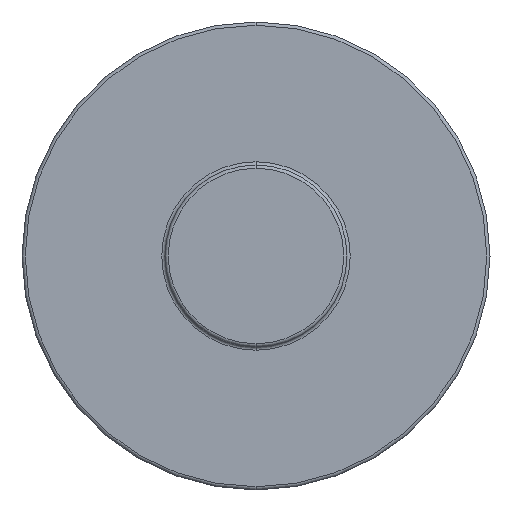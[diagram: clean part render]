
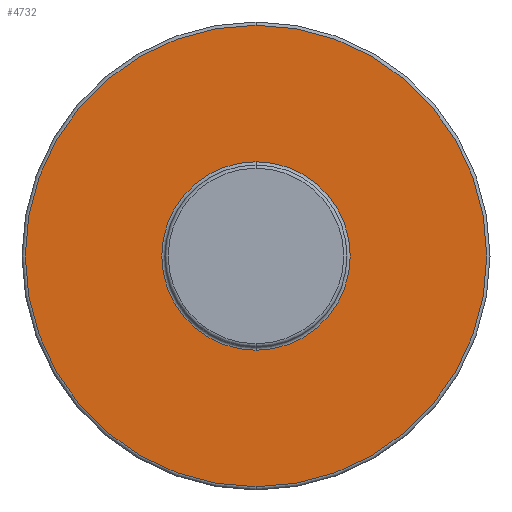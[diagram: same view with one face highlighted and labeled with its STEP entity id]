
A CAD part, front view. The second image highlights one B-rep face of the part: STEP entity #4732.
In plain terms, the highlighted planar face has unit normal (0, -1, 0) as drawn and (-1, 0, 0) by its records, which use the part's own axes.
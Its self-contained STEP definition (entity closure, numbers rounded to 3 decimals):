
#1 = CARTESIAN_POINT ( 'NONE',  ( 0., 0., -14.5 ) ) ;
#42 = EDGE_CURVE ( 'NONE', #2817, #2238, #4392, .T. ) ;
#103 = VERTEX_POINT ( 'NONE', #2790 ) ;
#435 = DIRECTION ( 'NONE',  ( 0., 0., -1. ) ) ;
#448 = ORIENTED_EDGE ( 'NONE', *, *, #4478, .T. ) ;
#456 = CARTESIAN_POINT ( 'NONE',  ( 0., 0., 0. ) ) ;
#648 = AXIS2_PLACEMENT_3D ( 'NONE', #4759, #1134, #1636 ) ;
#802 = EDGE_LOOP ( 'NONE', ( #4187, #448 ) ) ;
#1134 = DIRECTION ( 'NONE',  ( -1., 0., 0. ) ) ;
#1170 = CARTESIAN_POINT ( 'NONE',  ( 0., 0., -35.5 ) ) ;
#1191 = FACE_OUTER_BOUND ( 'NONE', #802, .T. ) ;
#1244 = FACE_BOUND ( 'NONE', #3299, .T. ) ;
#1279 = ORIENTED_EDGE ( 'NONE', *, *, #2448, .T. ) ;
#1574 = CARTESIAN_POINT ( 'NONE',  ( 0., 0., 0. ) ) ;
#1636 = DIRECTION ( 'NONE',  ( 0., 0., -1. ) ) ;
#1866 = AXIS2_PLACEMENT_3D ( 'NONE', #3436, #5017, #2703 ) ;
#2170 = AXIS2_PLACEMENT_3D ( 'NONE', #1574, #2413, #2825 ) ;
#2238 = VERTEX_POINT ( 'NONE', #4087 ) ;
#2413 = DIRECTION ( 'NONE',  ( 1., 0., 0. ) ) ;
#2448 = EDGE_CURVE ( 'NONE', #4186, #103, #4079, .T. ) ;
#2486 = DIRECTION ( 'NONE',  ( 1., 0., 0. ) ) ;
#2512 = CIRCLE ( 'NONE', #4455, 14.5 ) ;
#2703 = DIRECTION ( 'NONE',  ( 0., 0., -1. ) ) ;
#2790 = CARTESIAN_POINT ( 'NONE',  ( 0., 0., 14.5 ) ) ;
#2817 = VERTEX_POINT ( 'NONE', #1170 ) ;
#2825 = DIRECTION ( 'NONE',  ( 0., 0., -1. ) ) ;
#2855 = PLANE ( 'NONE',  #2170 ) ;
#3161 = DIRECTION ( 'NONE',  ( 1., 0., 0. ) ) ;
#3169 = CIRCLE ( 'NONE', #1866, 35.5 ) ;
#3181 = AXIS2_PLACEMENT_3D ( 'NONE', #456, #3161, #435 ) ;
#3248 = CARTESIAN_POINT ( 'NONE',  ( 0., 0., 0. ) ) ;
#3299 = EDGE_LOOP ( 'NONE', ( #1279, #3443 ) ) ;
#3436 = CARTESIAN_POINT ( 'NONE',  ( 0., 0., 0. ) ) ;
#3443 = ORIENTED_EDGE ( 'NONE', *, *, #3994, .T. ) ;
#3994 = EDGE_CURVE ( 'NONE', #103, #4186, #2512, .T. ) ;
#4040 = DIRECTION ( 'NONE',  ( 0., 0., -1. ) ) ;
#4079 = CIRCLE ( 'NONE', #3181, 14.5 ) ;
#4087 = CARTESIAN_POINT ( 'NONE',  ( 0., 0., 35.5 ) ) ;
#4186 = VERTEX_POINT ( 'NONE', #1 ) ;
#4187 = ORIENTED_EDGE ( 'NONE', *, *, #42, .T. ) ;
#4392 = CIRCLE ( 'NONE', #648, 35.5 ) ;
#4455 = AXIS2_PLACEMENT_3D ( 'NONE', #3248, #2486, #4040 ) ;
#4478 = EDGE_CURVE ( 'NONE', #2238, #2817, #3169, .T. ) ;
#4732 = ADVANCED_FACE ( 'NONE', ( #1191, #1244 ), #2855, .F. ) ;
#4759 = CARTESIAN_POINT ( 'NONE',  ( 0., 0., 0. ) ) ;
#5017 = DIRECTION ( 'NONE',  ( -1., 0., 0. ) ) ;
